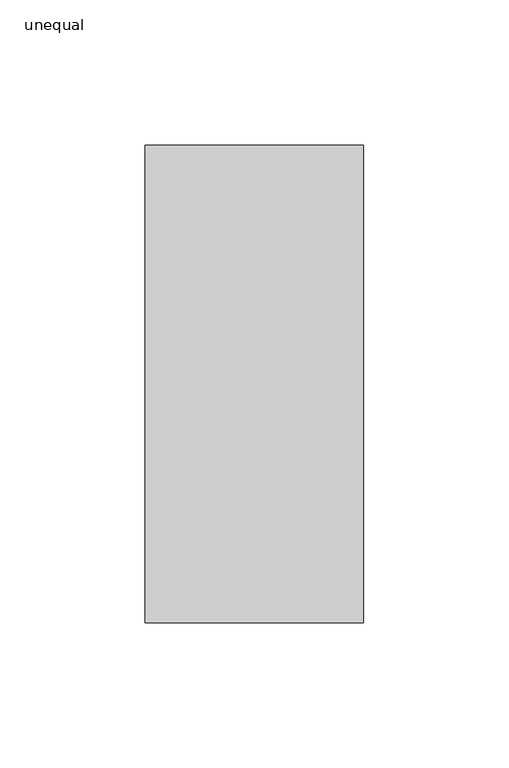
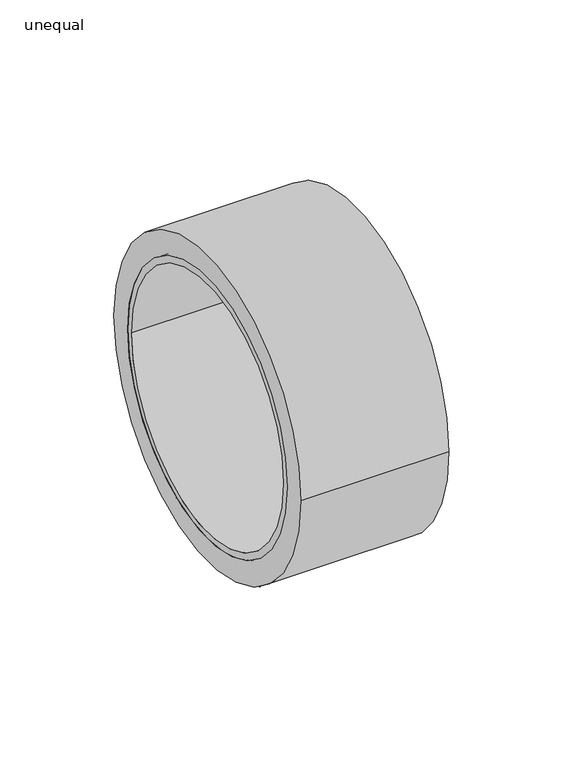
"""IFC4 building model written with IfcOpenShell, lengths in millimetres: pipe fitting geometry, PIF_ST_UN_GM-X compound pipe multi-tee_ACO : unequal."""

from ifc_helpers import new_model, si_unit, point, frame, origin, origin_2d, place, context, project, spatial, polyline, circle_curve, trimmed, segment, composite_curve, outline, extrude, source, transform, mapped, element, save
from ifc_brep_helpers import plane_surface, cylinder_surface, revolved_surface, advanced_brep


def unequal_dcafacf3(model_context):
    return source(origin(), model_context, "Body", "SolidModel", [
        extrude(outline(composite_curve([segment(trimmed(circle_curve(origin_2d(), 82.0), [point((-82.0, 0.0))], [point((82.0, 0.0))], False, "CARTESIAN"), True, "CONTINUOUS"), segment(trimmed(circle_curve(origin_2d(), 82.0), [point((82.0, 0.0))], [point((-82.0, 0.0))], False, "CARTESIAN"), True, "CONTINUOUS")], self_intersect=False), holes=[composite_curve([segment(trimmed(circle_curve(origin_2d(), 70.0), [point((-70.0, 0.0))], [point((70.0, 0.0))], True, "CARTESIAN"), True, "CONTINUOUS"), segment(trimmed(circle_curve(origin_2d(), 70.0), [point((70.0, 0.0))], [point((-70.0, 0.0))], True, "CARTESIAN"), True, "CONTINUOUS")], self_intersect=False)]), frame((15.0, 0.0, 0.0), z_axis=(1.0, 0.0, 0.0), x_axis=(0.0, 1.0, 0.0)), (0.0, 0.0, 1.0), 75.0),
        advanced_brep(
        [(90.0, -70.0, 0.0), (90.0, 70.0, 0.0), (90.0, 66.5, 0.0), (90.0, -66.5, 0.0), (15.0, -70.0, 0.0), (15.0, 70.0, 0.0), (15.0, -66.5, 0.0), (15.0, 66.5, 0.0), (55.0, -70.0, 0.0), (55.0, 70.0, 0.0), (23.4, 70.0, 0.0), (23.4, -70.0, 0.0), (55.0, -76.0, 0.0), (55.0, 76.0, 0.0), (23.4, -76.0, 0.0), (23.4, 76.0, 0.0)],
        [
            (0, 1, circle_curve(frame((90.0, 0.0, 0.0), z_axis=(1.0, 0.0, 0.0), x_axis=(0.0, 1.0, 0.0)), 70.0)),
            (1, 0, circle_curve(frame((90.0, 0.0, 0.0), z_axis=(1.0, 0.0, 0.0), x_axis=(0.0, 1.0, 0.0)), 70.0)),
            (2, 3, circle_curve(frame((90.0, 0.0, 0.0), z_axis=(-1.0, 0.0, 0.0), x_axis=(0.0, 1.0, 0.0)), 66.5)),
            (3, 2, circle_curve(frame((90.0, 0.0, 0.0), z_axis=(-1.0, 0.0, 0.0), x_axis=(0.0, 1.0, 0.0)), 66.5)),
            (4, 5, circle_curve(frame((15.0, 0.0, 0.0), z_axis=(-1.0, 0.0, 0.0), x_axis=(0.0, 1.0, 0.0)), 70.0)),
            (5, 4, circle_curve(frame((15.0, 0.0, 0.0), z_axis=(-1.0, 0.0, 0.0), x_axis=(0.0, 1.0, 0.0)), 70.0)),
            (6, 7, circle_curve(frame((15.0, 0.0, 0.0), z_axis=(1.0, 0.0, 0.0), x_axis=(0.0, 1.0, 0.0)), 66.5)),
            (7, 6, circle_curve(frame((15.0, 0.0, 0.0), z_axis=(1.0, 0.0, 0.0), x_axis=(0.0, 1.0, 0.0)), 66.5)),
            (0, 8),
            (8, 9, circle_curve(frame((55.0, 0.0, 0.0), z_axis=(1.0, 0.0, 0.0), x_axis=(0.0, 1.0, 0.0)), 70.0)),
            (9, 1),
            (5, 10),
            (10, 11, circle_curve(frame((23.4, 0.0, 0.0), z_axis=(-1.0, 0.0, 0.0), x_axis=(0.0, 1.0, 0.0)), 70.0)),
            (11, 4),
            (9, 8, circle_curve(frame((55.0, 0.0, 0.0), z_axis=(1.0, 0.0, 0.0), x_axis=(0.0, 1.0, 0.0)), 70.0)),
            (11, 10, circle_curve(frame((23.4, 0.0, 0.0), z_axis=(-1.0, 0.0, 0.0), x_axis=(0.0, 1.0, 0.0)), 70.0)),
            (2, 7),
            (6, 3),
            (12, 13, circle_curve(frame((55.0, 0.0, 0.0), z_axis=(1.0, 0.0, 0.0), x_axis=(0.0, 1.0, 0.0)), 76.0)),
            (13, 12, circle_curve(frame((55.0, 0.0, 0.0), z_axis=(1.0, 0.0, 0.0), x_axis=(0.0, 1.0, 0.0)), 76.0)),
            (14, 15, circle_curve(frame((23.4, 0.0, 0.0), z_axis=(-1.0, 0.0, 0.0), x_axis=(0.0, 1.0, 0.0)), 76.0)),
            (15, 14, circle_curve(frame((23.4, 0.0, 0.0), z_axis=(-1.0, 0.0, 0.0), x_axis=(0.0, 1.0, 0.0)), 76.0)),
            (12, 14),
            (15, 13),
        ],
        [
            plane_surface(frame((90.0, 70.0, 0.0), z_axis=(1.0, 0.0, 0.0), x_axis=(0.0, 0.0, 1.0))),
            plane_surface(frame((15.0, 70.0, 0.0), z_axis=(-1.0, 0.0, 0.0), x_axis=(0.0, 0.0, -1.0))),
            cylinder_surface(frame((15.0, 0.0, 0.0), z_axis=(1.0, 0.0, 0.0), x_axis=(0.0, 1.0, 0.0)), 70.0),
            revolved_surface(polyline([(90.0, 66.5, 0.0), (15.0, 66.5, 0.0)]), (15.0, 0.0, 0.0), (1.0, 0.0, 0.0)),
            plane_surface(frame((55.0, 76.0, 0.0), z_axis=(1.0, 0.0, 0.0), x_axis=(0.0, 0.0, 1.0))),
            plane_surface(frame((23.4, 76.0, 0.0), z_axis=(-1.0, 0.0, 0.0), x_axis=(0.0, 0.0, -1.0))),
            cylinder_surface(frame((23.4, 0.0, 0.0), z_axis=(1.0, 0.0, 0.0), x_axis=(0.0, 1.0, 0.0)), 76.0),
        ],
        [
            (0, [[1, 2], [3, 4]]),
            (1, [[5, 6], [7, 8]]),
            (2, [[-1, 9, 10, 11]]),
            (2, [[-6, 12, 13, 14]]),
            (2, [[-2, -11, 15, -9]]),
            (2, [[-5, -14, 16, -12]]),
            (3, [[17, -7, 18, -3]]),
            (3, [[-17, -4, -18, -8]]),
            (4, [[19, 20], [-10, -15]]),
            (5, [[21, 22], [-13, -16]]),
            (6, [[-19, 23, -22, 24]]),
            (6, [[-20, -24, -21, -23]]),
        ],
    ),
    ])


if __name__ == "__main__":
    model = new_model("IFC4")
    model_context = context("Model", 3, world=origin())
    ifc_project = project(units=[si_unit("LENGTHUNIT", "METRE", prefix="MILLI")], contexts=[model_context])
    site = spatial("IfcSite", under=ifc_project)
    building = spatial("IfcBuilding", under=site)
    placement = place(None, origin())
    unequal_shape = unequal_dcafacf3(model_context)
    element("IfcPipeFitting", 1, ObjectType="PIF_ST_UN_GM-X compound pipe multi-tee_ACO : unequal", at=placement, inside=building, context=model_context, shape_type="MappedRepresentation", body=[
        mapped(unequal_shape, transform((0.0, 0.0, 0.0), x_axis=(1.0, 0.0, 0.0), y_axis=(0.0, 1.0, 0.0), z_axis=(0.0, 0.0, 1.0))),
    ])
    save(model, "model.ifc")
